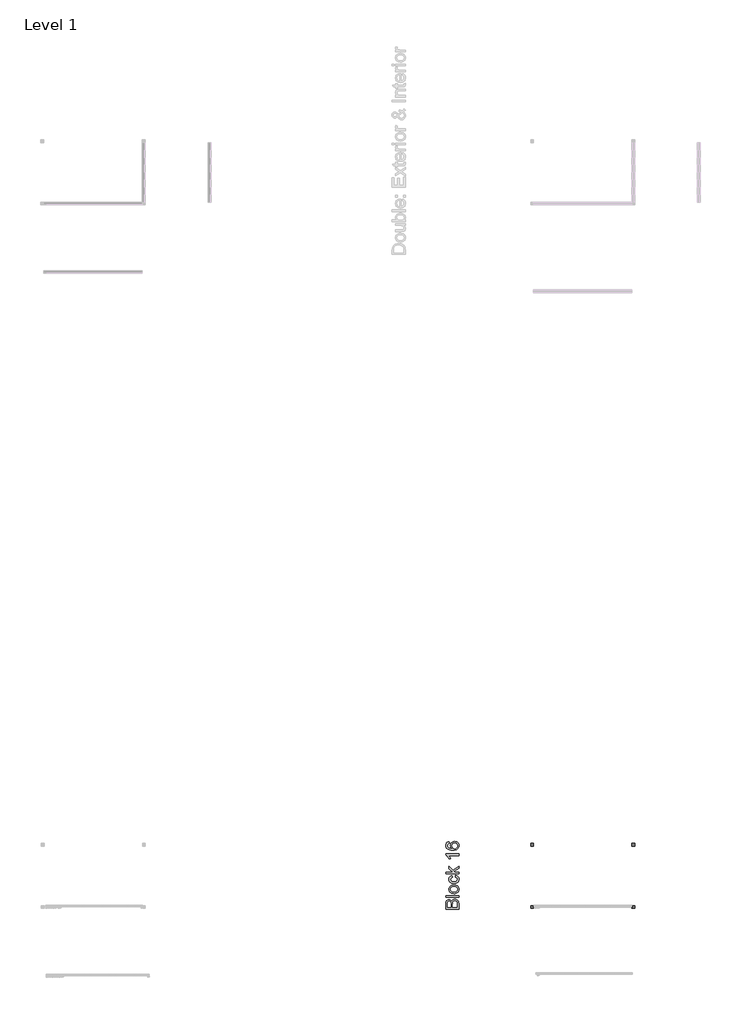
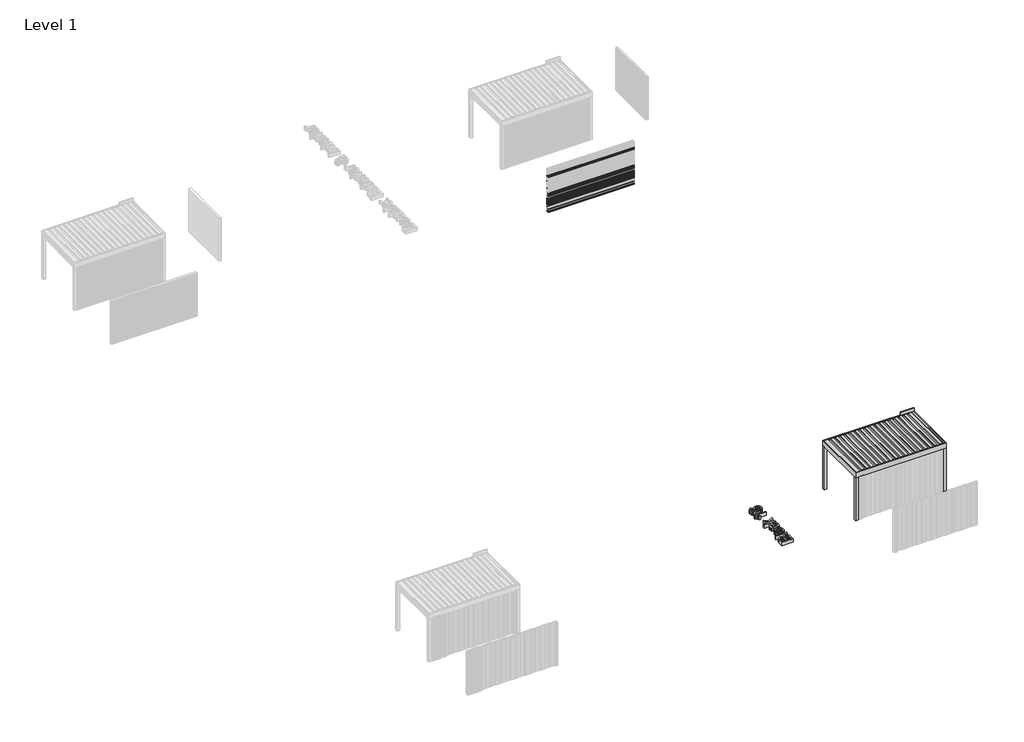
# One storey, part 38 of 47: 69 proxies.
"""IFC4 building model written with IfcOpenShell, lengths in millimetres."""

from ifc_helpers import new_model, si_unit, frame, origin, origin_with_axes, place, context, project, spatial, polyline, outline, extrude, transform, mapped, element, save
from components import generic_models_6c472f40

model = new_model("IFC4")

# Units and contexts
model_context = context("Model", 3, world=origin())
ifc_project = project(units=[si_unit("LENGTHUNIT", "METRE", prefix="MILLI")], contexts=[model_context])

# Site, building, storey
site = spatial("IfcSite", under=ifc_project)
building = spatial("IfcBuilding", under=site)
storey = spatial("IfcBuildingStorey", under=building, Name="Level 1", Elevation=0.0)

# Proxies
placement = place(None, origin())
element("IfcBuildingElementProxy", 1, Name="Wall Sweeps", at=placement, inside=storey, context=model_context, shape_type="SweptSolid", body=[
    extrude(outline(polyline([(1074.9, 190362.4238385), (1085.9562577, 190343.2738385), (1098.9, 190343.2738385), (1098.9, 190342.0238385), (1085.2345698, 190342.0238385), (1074.1782281, 190361.1738385), (1062.1216933, 190361.1738385), (1061.4, 190362.4238385), (1074.9, 190362.4238385)])), frame((0.0, 39632.1593685, 0.0), z_axis=(0.0, 1.0, 0.0), x_axis=(0.0, 0.0, 1.0)), (0.0, 0.0, 1.0), 2280.0),
])
element("IfcBuildingElementProxy", 2, Name="Wall Sweeps", at=placement, inside=storey, context=model_context, shape_type="SweptSolid", body=[
    extrude(outline(polyline([(1041.6, 190362.4238385), (1052.6562577, 190343.2738385), (1065.6, 190343.2738385), (1065.6, 190342.0238385), (1051.9345698, 190342.0238385), (1040.8782281, 190361.1738385), (1028.8216933, 190361.1738385), (1028.1, 190362.4238385), (1041.6, 190362.4238385)])), frame((0.0, 39632.1593685, 0.0), z_axis=(0.0, 1.0, 0.0), x_axis=(0.0, 0.0, 1.0)), (0.0, 0.0, 1.0), 2280.0),
])
element("IfcBuildingElementProxy", 3, Name="Wall Sweeps", at=placement, inside=storey, context=model_context, shape_type="SweptSolid", body=[
    extrude(outline(polyline([(1008.3, 190362.4238385), (1019.3562577, 190343.2738385), (1032.3, 190343.2738385), (1032.3, 190342.0238385), (1018.6345698, 190342.0238385), (1007.5782281, 190361.1738385), (995.5216933, 190361.1738385), (994.8, 190362.4238385), (1008.3, 190362.4238385)])), frame((0.0, 39632.1593685, 0.0), z_axis=(0.0, 1.0, 0.0), x_axis=(0.0, 0.0, 1.0)), (0.0, 0.0, 1.0), 2280.0),
])
element("IfcBuildingElementProxy", 4, Name="Wall Sweeps", at=placement, inside=storey, context=model_context, shape_type="SweptSolid", body=[
    extrude(outline(polyline([(975.0, 190362.4238385), (986.0562577, 190343.2738385), (999.0, 190343.2738385), (999.0, 190342.0238385), (985.3345698, 190342.0238385), (974.2782281, 190361.1738385), (962.2216933, 190361.1738385), (961.5, 190362.4238385), (975.0, 190362.4238385)])), frame((0.0, 39632.1593685, 0.0), z_axis=(0.0, 1.0, 0.0), x_axis=(0.0, 0.0, 1.0)), (0.0, 0.0, 1.0), 2280.0),
])
element("IfcBuildingElementProxy", 5, Name="Wall Sweeps", at=placement, inside=storey, context=model_context, shape_type="SweptSolid", body=[
    extrude(outline(polyline([(941.7, 190362.4238385), (952.7562577, 190343.2738385), (965.7, 190343.2738385), (965.7, 190342.0238385), (952.0345698, 190342.0238385), (940.9782281, 190361.1738385), (928.9216933, 190361.1738385), (928.2, 190362.4238385), (941.7, 190362.4238385)])), frame((0.0, 39632.1593685, 0.0), z_axis=(0.0, 1.0, 0.0), x_axis=(0.0, 0.0, 1.0)), (0.0, 0.0, 1.0), 2280.0),
])
element("IfcBuildingElementProxy", 6, Name="Wall Sweeps", at=placement, inside=storey, context=model_context, shape_type="SweptSolid", body=[
    extrude(outline(polyline([(908.4, 190362.4238385), (919.4562577, 190343.2738385), (932.4, 190343.2738385), (932.4, 190342.0238385), (918.7345698, 190342.0238385), (907.6782281, 190361.1738385), (895.6216933, 190361.1738385), (894.9, 190362.4238385), (908.4, 190362.4238385)])), frame((0.0, 39632.1593685, 0.0), z_axis=(0.0, 1.0, 0.0), x_axis=(0.0, 0.0, 1.0)), (0.0, 0.0, 1.0), 2280.0),
])
element("IfcBuildingElementProxy", 7, Name="Wall Sweeps", at=placement, inside=storey, context=model_context, shape_type="SweptSolid", body=[
    extrude(outline(polyline([(875.1, 190362.4238385), (886.1562577, 190343.2738385), (899.1, 190343.2738385), (899.1, 190342.0238385), (885.4345698, 190342.0238385), (874.3782281, 190361.1738385), (862.3216933, 190361.1738385), (861.6, 190362.4238385), (875.1, 190362.4238385)])), frame((0.0, 39632.1593685, 0.0), z_axis=(0.0, 1.0, 0.0), x_axis=(0.0, 0.0, 1.0)), (0.0, 0.0, 1.0), 2280.0),
])
element("IfcBuildingElementProxy", 8, Name="Wall Sweeps", at=placement, inside=storey, context=model_context, shape_type="SweptSolid", body=[
    extrude(outline(polyline([(841.8, 190362.4238385), (852.8562577, 190343.2738385), (865.8, 190343.2738385), (865.8, 190342.0238385), (852.1345698, 190342.0238385), (841.0782281, 190361.1738385), (829.0216933, 190361.1738385), (828.3, 190362.4238385), (841.8, 190362.4238385)])), frame((0.0, 39632.1593685, 0.0), z_axis=(0.0, 1.0, 0.0), x_axis=(0.0, 0.0, 1.0)), (0.0, 0.0, 1.0), 2280.0),
])
element("IfcBuildingElementProxy", 9, Name="Wall Sweeps", at=placement, inside=storey, context=model_context, shape_type="SweptSolid", body=[
    extrude(outline(polyline([(808.5, 190362.4238385), (819.5562577, 190343.2738385), (832.5, 190343.2738385), (832.5, 190342.0238385), (818.8345698, 190342.0238385), (807.7782281, 190361.1738385), (795.7216933, 190361.1738385), (795.0, 190362.4238385), (808.5, 190362.4238385)])), frame((0.0, 39632.1593685, 0.0), z_axis=(0.0, 1.0, 0.0), x_axis=(0.0, 0.0, 1.0)), (0.0, 0.0, 1.0), 2280.0),
])
element("IfcBuildingElementProxy", 10, Name="Wall Sweeps", at=placement, inside=storey, context=model_context, shape_type="SweptSolid", body=[
    extrude(outline(polyline([(775.2, 190362.4238385), (786.2562577, 190343.2738385), (799.2, 190343.2738385), (799.2, 190342.0238385), (785.5345698, 190342.0238385), (774.4782281, 190361.1738385), (762.4216933, 190361.1738385), (761.7, 190362.4238385), (775.2, 190362.4238385)])), frame((0.0, 39632.1593685, 0.0), z_axis=(0.0, 1.0, 0.0), x_axis=(0.0, 0.0, 1.0)), (0.0, 0.0, 1.0), 2280.0),
])
element("IfcBuildingElementProxy", 11, Name="Wall Sweeps", at=placement, inside=storey, context=model_context, shape_type="SweptSolid", body=[
    extrude(outline(polyline([(741.9, 190362.4238385), (752.9562577, 190343.2738385), (765.9, 190343.2738385), (765.9, 190342.0238385), (752.2345698, 190342.0238385), (741.1782281, 190361.1738385), (729.1216933, 190361.1738385), (728.4, 190362.4238385), (741.9, 190362.4238385)])), frame((0.0, 39632.1593685, 0.0), z_axis=(0.0, 1.0, 0.0), x_axis=(0.0, 0.0, 1.0)), (0.0, 0.0, 1.0), 2280.0),
])
element("IfcBuildingElementProxy", 12, Name="Wall Sweeps", at=placement, inside=storey, context=model_context, shape_type="SweptSolid", body=[
    extrude(outline(polyline([(708.6, 190362.4238385), (719.6562577, 190343.2738385), (732.6, 190343.2738385), (732.6, 190342.0238385), (718.9345698, 190342.0238385), (707.8782281, 190361.1738385), (695.8216933, 190361.1738385), (695.1, 190362.4238385), (708.6, 190362.4238385)])), frame((0.0, 39632.1593685, 0.0), z_axis=(0.0, 1.0, 0.0), x_axis=(0.0, 0.0, 1.0)), (0.0, 0.0, 1.0), 2280.0),
])
element("IfcBuildingElementProxy", 13, Name="Wall Sweeps", at=placement, inside=storey, context=model_context, shape_type="SweptSolid", body=[
    extrude(outline(polyline([(675.3, 190362.4238385), (686.3562577, 190343.2738385), (699.3, 190343.2738385), (699.3, 190342.0238385), (685.6345698, 190342.0238385), (674.5782281, 190361.1738385), (662.5216933, 190361.1738385), (661.8, 190362.4238385), (675.3, 190362.4238385)])), frame((0.0, 39632.1593685, 0.0), z_axis=(0.0, 1.0, 0.0), x_axis=(0.0, 0.0, 1.0)), (0.0, 0.0, 1.0), 2280.0),
])
element("IfcBuildingElementProxy", 14, Name="Wall Sweeps", at=placement, inside=storey, context=model_context, shape_type="SweptSolid", body=[
    extrude(outline(polyline([(642.0, 190362.4238385), (653.0562577, 190343.2738385), (666.0, 190343.2738385), (666.0, 190342.0238385), (652.3345698, 190342.0238385), (641.2782281, 190361.1738385), (629.2216933, 190361.1738385), (628.5, 190362.4238385), (642.0, 190362.4238385)])), frame((0.0, 39632.1593685, 0.0), z_axis=(0.0, 1.0, 0.0), x_axis=(0.0, 0.0, 1.0)), (0.0, 0.0, 1.0), 2280.0),
])
element("IfcBuildingElementProxy", 15, Name="Wall Sweeps", at=placement, inside=storey, context=model_context, shape_type="SweptSolid", body=[
    extrude(outline(polyline([(608.7, 190362.4238385), (619.7562577, 190343.2738385), (632.7, 190343.2738385), (632.7, 190342.0238385), (619.0345698, 190342.0238385), (607.9782281, 190361.1738385), (595.9216933, 190361.1738385), (595.2, 190362.4238385), (608.7, 190362.4238385)])), frame((0.0, 39632.1593685, 0.0), z_axis=(0.0, 1.0, 0.0), x_axis=(0.0, 0.0, 1.0)), (0.0, 0.0, 1.0), 2280.0),
])
element("IfcBuildingElementProxy", 16, Name="Wall Sweeps", at=placement, inside=storey, context=model_context, shape_type="SweptSolid", body=[
    extrude(outline(polyline([(575.4, 190362.4238385), (586.4562577, 190343.2738385), (599.4, 190343.2738385), (599.4, 190342.0238385), (585.7345698, 190342.0238385), (574.6782281, 190361.1738385), (562.6216933, 190361.1738385), (561.9, 190362.4238385), (575.4, 190362.4238385)])), frame((0.0, 39632.1593685, 0.0), z_axis=(0.0, 1.0, 0.0), x_axis=(0.0, 0.0, 1.0)), (0.0, 0.0, 1.0), 2280.0),
])
element("IfcBuildingElementProxy", 17, Name="Wall Sweeps", at=placement, inside=storey, context=model_context, shape_type="SweptSolid", body=[
    extrude(outline(polyline([(542.1, 190362.4238385), (553.1562577, 190343.2738385), (566.1, 190343.2738385), (566.1, 190342.0238385), (552.4345698, 190342.0238385), (541.3782281, 190361.1738385), (529.3216933, 190361.1738385), (528.6, 190362.4238385), (542.1, 190362.4238385)])), frame((0.0, 39632.1593685, 0.0), z_axis=(0.0, 1.0, 0.0), x_axis=(0.0, 0.0, 1.0)), (0.0, 0.0, 1.0), 2280.0),
])
element("IfcBuildingElementProxy", 18, Name="Wall Sweeps", at=placement, inside=storey, context=model_context, shape_type="SweptSolid", body=[
    extrude(outline(polyline([(508.8, 190362.4238385), (519.8562577, 190343.2738385), (532.8, 190343.2738385), (532.8, 190342.0238385), (519.1345698, 190342.0238385), (508.0782281, 190361.1738385), (496.0216933, 190361.1738385), (495.3, 190362.4238385), (508.8, 190362.4238385)])), frame((0.0, 39632.1593685, 0.0), z_axis=(0.0, 1.0, 0.0), x_axis=(0.0, 0.0, 1.0)), (0.0, 0.0, 1.0), 2280.0),
])
element("IfcBuildingElementProxy", 19, Name="Wall Sweeps", at=placement, inside=storey, context=model_context, shape_type="SweptSolid", body=[
    extrude(outline(polyline([(475.5, 190362.4238385), (486.5562577, 190343.2738385), (499.5, 190343.2738385), (499.5, 190342.0238385), (485.8345698, 190342.0238385), (474.7782281, 190361.1738385), (462.7216933, 190361.1738385), (462.0, 190362.4238385), (475.5, 190362.4238385)])), frame((0.0, 39632.1593685, 0.0), z_axis=(0.0, 1.0, 0.0), x_axis=(0.0, 0.0, 1.0)), (0.0, 0.0, 1.0), 2280.0),
])
element("IfcBuildingElementProxy", 20, Name="Wall Sweeps", at=placement, inside=storey, context=model_context, shape_type="SweptSolid", body=[
    extrude(outline(polyline([(442.2, 190362.4238385), (453.2562577, 190343.2738385), (466.2, 190343.2738385), (466.2, 190342.0238385), (452.5345698, 190342.0238385), (441.4782281, 190361.1738385), (429.4216933, 190361.1738385), (428.7, 190362.4238385), (442.2, 190362.4238385)])), frame((0.0, 39632.1593685, 0.0), z_axis=(0.0, 1.0, 0.0), x_axis=(0.0, 0.0, 1.0)), (0.0, 0.0, 1.0), 2280.0),
])
element("IfcBuildingElementProxy", 21, Name="Wall Sweeps", at=placement, inside=storey, context=model_context, shape_type="SweptSolid", body=[
    extrude(outline(polyline([(408.9, 190362.4238385), (419.9562577, 190343.2738385), (432.9, 190343.2738385), (432.9, 190342.0238385), (419.2345698, 190342.0238385), (408.1782281, 190361.1738385), (396.1216933, 190361.1738385), (395.4, 190362.4238385), (408.9, 190362.4238385)])), frame((0.0, 39632.1593685, 0.0), z_axis=(0.0, 1.0, 0.0), x_axis=(0.0, 0.0, 1.0)), (0.0, 0.0, 1.0), 2280.0),
])
element("IfcBuildingElementProxy", 22, Name="Wall Sweeps", at=placement, inside=storey, context=model_context, shape_type="SweptSolid", body=[
    extrude(outline(polyline([(375.6, 190362.4238385), (386.6562577, 190343.2738385), (399.6, 190343.2738385), (399.6, 190342.0238385), (385.9345698, 190342.0238385), (374.8782281, 190361.1738385), (362.8216933, 190361.1738385), (362.1, 190362.4238385), (375.6, 190362.4238385)])), frame((0.0, 39632.1593685, 0.0), z_axis=(0.0, 1.0, 0.0), x_axis=(0.0, 0.0, 1.0)), (0.0, 0.0, 1.0), 2280.0),
])
element("IfcBuildingElementProxy", 23, Name="Wall Sweeps", at=placement, inside=storey, context=model_context, shape_type="SweptSolid", body=[
    extrude(outline(polyline([(342.3, 190362.4238385), (353.3562577, 190343.2738385), (366.3, 190343.2738385), (366.3, 190342.0238385), (352.6345698, 190342.0238385), (341.5782281, 190361.1738385), (329.5216933, 190361.1738385), (328.8, 190362.4238385), (342.3, 190362.4238385)])), frame((0.0, 39632.1593685, 0.0), z_axis=(0.0, 1.0, 0.0), x_axis=(0.0, 0.0, 1.0)), (0.0, 0.0, 1.0), 2280.0),
])
element("IfcBuildingElementProxy", 24, Name="Wall Sweeps", at=placement, inside=storey, context=model_context, shape_type="SweptSolid", body=[
    extrude(outline(polyline([(309.0, 190362.4238385), (320.0562577, 190343.2738385), (333.0, 190343.2738385), (333.0, 190342.0238385), (319.3345698, 190342.0238385), (308.2782281, 190361.1738385), (296.2216933, 190361.1738385), (295.5, 190362.4238385), (309.0, 190362.4238385)])), frame((0.0, 39632.1593685, 0.0), z_axis=(0.0, 1.0, 0.0), x_axis=(0.0, 0.0, 1.0)), (0.0, 0.0, 1.0), 2280.0),
])
element("IfcBuildingElementProxy", 25, Name="Wall Sweeps", at=placement, inside=storey, context=model_context, shape_type="SweptSolid", body=[
    extrude(outline(polyline([(275.7, 190362.4238385), (286.7562577, 190343.2738385), (299.7, 190343.2738385), (299.7, 190342.0238385), (286.0345698, 190342.0238385), (274.9782281, 190361.1738385), (262.9216933, 190361.1738385), (262.2, 190362.4238385), (275.7, 190362.4238385)])), frame((0.0, 39632.1593685, 0.0), z_axis=(0.0, 1.0, 0.0), x_axis=(0.0, 0.0, 1.0)), (0.0, 0.0, 1.0), 2280.0),
])
element("IfcBuildingElementProxy", 26, Name="Wall Sweeps", at=placement, inside=storey, context=model_context, shape_type="SweptSolid", body=[
    extrude(outline(polyline([(242.4, 190362.4238385), (253.4562577, 190343.2738385), (266.4, 190343.2738385), (266.4, 190342.0238385), (252.7345698, 190342.0238385), (241.6782281, 190361.1738385), (229.6216933, 190361.1738385), (228.9, 190362.4238385), (242.4, 190362.4238385)])), frame((0.0, 39632.1593685, 0.0), z_axis=(0.0, 1.0, 0.0), x_axis=(0.0, 0.0, 1.0)), (0.0, 0.0, 1.0), 2280.0),
])
element("IfcBuildingElementProxy", 27, Name="Wall Sweeps", at=placement, inside=storey, context=model_context, shape_type="SweptSolid", body=[
    extrude(outline(polyline([(209.1, 190362.4238385), (220.1562577, 190343.2738385), (233.1, 190343.2738385), (233.1, 190342.0238385), (219.4345698, 190342.0238385), (208.3782281, 190361.1738385), (196.3216933, 190361.1738385), (195.6, 190362.4238385), (209.1, 190362.4238385)])), frame((0.0, 39632.1593685, 0.0), z_axis=(0.0, 1.0, 0.0), x_axis=(0.0, 0.0, 1.0)), (0.0, 0.0, 1.0), 2280.0),
])
element("IfcBuildingElementProxy", 28, Name="Wall Sweeps", at=placement, inside=storey, context=model_context, shape_type="SweptSolid", body=[
    extrude(outline(polyline([(175.8, 190362.4238385), (186.8562577, 190343.2738385), (199.8, 190343.2738385), (199.8, 190342.0238385), (186.1345698, 190342.0238385), (175.0782281, 190361.1738385), (163.0216933, 190361.1738385), (162.3, 190362.4238385), (175.8, 190362.4238385)])), frame((0.0, 39632.1593685, 0.0), z_axis=(0.0, 1.0, 0.0), x_axis=(0.0, 0.0, 1.0)), (0.0, 0.0, 1.0), 2280.0),
])
element("IfcBuildingElementProxy", 29, Name="Wall Sweeps", at=placement, inside=storey, context=model_context, shape_type="SweptSolid", body=[
    extrude(outline(polyline([(142.5, 190362.4238385), (153.5562577, 190343.2738385), (166.5, 190343.2738385), (166.5, 190342.0238385), (152.8345698, 190342.0238385), (141.7782281, 190361.1738385), (129.7216933, 190361.1738385), (129.0, 190362.4238385), (142.5, 190362.4238385)])), frame((0.0, 39632.1593685, 0.0), z_axis=(0.0, 1.0, 0.0), x_axis=(0.0, 0.0, 1.0)), (0.0, 0.0, 1.0), 2280.0),
])
element("IfcBuildingElementProxy", 30, Name="Wall Sweeps", at=placement, inside=storey, context=model_context, shape_type="SweptSolid", body=[
    extrude(outline(polyline([(109.2, 190362.4238385), (120.2562577, 190343.2738385), (133.2, 190343.2738385), (133.2, 190342.0238385), (119.5345698, 190342.0238385), (108.4782281, 190361.1738385), (96.4216933, 190361.1738385), (95.7, 190362.4238385), (109.2, 190362.4238385)])), frame((0.0, 39632.1593685, 0.0), z_axis=(0.0, 1.0, 0.0), x_axis=(0.0, 0.0, 1.0)), (0.0, 0.0, 1.0), 2280.0),
])
element("IfcBuildingElementProxy", 31, Name="Wall Sweeps", at=placement, inside=storey, context=model_context, shape_type="SweptSolid", body=[
    extrude(outline(polyline([(75.9, 190362.4238385), (86.9562577, 190343.2738385), (99.9, 190343.2738385), (99.9, 190342.0238385), (86.2345698, 190342.0238385), (75.1782281, 190361.1738385), (63.1216933, 190361.1738385), (62.4, 190362.4238385), (75.9, 190362.4238385)])), frame((0.0, 39632.1593685, 0.0), z_axis=(0.0, 1.0, 0.0), x_axis=(0.0, 0.0, 1.0)), (0.0, 0.0, 1.0), 2280.0),
])
element("IfcBuildingElementProxy", 32, Name="Wall Sweeps", at=placement, inside=storey, context=model_context, shape_type="SweptSolid", body=[
    extrude(outline(polyline([(42.6, 190362.4238385), (53.6562577, 190343.2738385), (66.6, 190343.2738385), (66.6, 190342.0238385), (52.9345698, 190342.0238385), (41.8782281, 190361.1738385), (29.8216933, 190361.1738385), (29.1, 190362.4238385), (42.6, 190362.4238385)])), frame((0.0, 39632.1593685, 0.0), z_axis=(0.0, 1.0, 0.0), x_axis=(0.0, 0.0, 1.0)), (0.0, 0.0, 1.0), 2280.0),
])
element("IfcBuildingElementProxy", 33, Name="Wall Sweeps", at=placement, inside=storey, context=model_context, shape_type="SweptSolid", body=[
    extrude(outline(polyline([(9.3, 190362.4238385), (20.3562577, 190343.2738385), (33.3, 190343.2738385), (33.3, 190342.0238385), (19.6345698, 190342.0238385), (8.5782281, 190361.1738385), (-3.4783067, 190361.1738385), (-4.2, 190362.4238385), (9.3, 190362.4238385)])), frame((0.0, 39632.1593685, 0.0), z_axis=(0.0, 1.0, 0.0), x_axis=(0.0, 0.0, 1.0)), (0.0, 0.0, 1.0), 2280.0),
])
element("IfcBuildingElementProxy", 34, Name="Wall Sweeps", at=placement, inside=storey, context=model_context, shape_type="SweptSolid", body=[
    extrude(outline(polyline([(36266.8292826, 309.3), (36266.8292826, 295.8), (36265.5792826, 296.5216933), (36265.5792826, 308.5782281), (36246.4292826, 319.6345698), (36246.4292826, 333.3), (36247.6792826, 333.3), (36247.6792826, 320.3562577), (36266.8292826, 309.3)])), frame((205282.4238385, 0.0, 0.0), z_axis=(1.0, 0.0, 0.0), x_axis=(0.0, 1.0, 0.0)), (0.0, 0.0, 1.0), 3780.0),
])
element("IfcBuildingElementProxy", 35, Name="Wall Sweeps", at=placement, inside=storey, context=model_context, shape_type="SweptSolid", body=[
    extrude(outline(polyline([(36156.8292826, 741.9), (36175.9792826, 752.9562577), (36175.9792826, 765.9), (36177.2292826, 765.9), (36177.2292826, 752.2345698), (36158.0792826, 741.1782281), (36158.0792826, 729.1216933), (36156.8292826, 728.4), (36156.8292826, 741.9)])), frame((205282.4238385, 0.0, 0.0), z_axis=(1.0, 0.0, 0.0), x_axis=(0.0, 1.0, 0.0)), (0.0, 0.0, 1.0), 3780.0),
])
element("IfcBuildingElementProxy", 36, Name="Wall Sweeps", at=placement, inside=storey, context=model_context, shape_type="SweptSolid", body=[
    extrude(outline(polyline([(36156.8292826, 808.5), (36175.9792826, 819.5562577), (36175.9792826, 832.5), (36177.2292826, 832.5), (36177.2292826, 818.8345698), (36158.0792826, 807.7782281), (36158.0792826, 795.7216933), (36156.8292826, 795.0), (36156.8292826, 808.5)])), frame((205282.4238385, 0.0, 0.0), z_axis=(1.0, 0.0, 0.0), x_axis=(0.0, 1.0, 0.0)), (0.0, 0.0, 1.0), 3780.0),
])
element("IfcBuildingElementProxy", 37, Name="Wall Sweeps", at=placement, inside=storey, context=model_context, shape_type="SweptSolid", body=[
    extrude(outline(polyline([(36156.8292826, 875.1), (36175.9792826, 886.1562577), (36175.9792826, 899.1), (36177.2292826, 899.1), (36177.2292826, 885.4345698), (36158.0792826, 874.3782281), (36158.0792826, 862.3216933), (36156.8292826, 861.6), (36156.8292826, 875.1)])), frame((205282.4238385, 0.0, 0.0), z_axis=(1.0, 0.0, 0.0), x_axis=(0.0, 1.0, 0.0)), (0.0, 0.0, 1.0), 3780.0),
])
element("IfcBuildingElementProxy", 38, Name="Wall Sweeps", at=placement, inside=storey, context=model_context, shape_type="SweptSolid", body=[
    extrude(outline(polyline([(36266.8292826, 1075.9), (36266.8292826, 1062.4), (36265.5792826, 1063.1216933), (36265.5792826, 1075.1782281), (36246.4292826, 1086.2345698), (36246.4292826, 1099.9), (36247.6792826, 1099.9), (36247.6792826, 1086.9562577), (36266.8292826, 1075.9)])), frame((205282.4238385, 0.0, 0.0), z_axis=(1.0, 0.0, 0.0), x_axis=(0.0, 1.0, 0.0)), (0.0, 0.0, 1.0), 3780.0),
])
element("IfcBuildingElementProxy", 39, Name="Wall Sweeps", at=placement, inside=storey, context=model_context, shape_type="SweptSolid", body=[
    extrude(outline(polyline([(36266.8292826, 1409.2), (36266.8292826, 1395.7), (36265.5792826, 1396.4216933), (36265.5792826, 1408.4782281), (36246.4292826, 1419.5345698), (36246.4292826, 1433.2), (36247.6792826, 1433.2), (36247.6792826, 1420.2562577), (36266.8292826, 1409.2)])), frame((205282.4238385, 0.0, 0.0), z_axis=(1.0, 0.0, 0.0), x_axis=(0.0, 1.0, 0.0)), (0.0, 0.0, 1.0), 3780.0),
])
element("IfcBuildingElementProxy", 40, Name="Wall Sweeps", at=placement, inside=storey, context=model_context, shape_type="SweptSolid", body=[
    extrude(outline(polyline([(36156.8292826, 1641.0), (36175.9792826, 1652.0562577), (36175.9792826, 1665.0), (36177.2292826, 1665.0), (36177.2292826, 1651.3345698), (36158.0792826, 1640.2782281), (36158.0792826, 1628.2216933), (36156.8292826, 1627.5), (36156.8292826, 1641.0)])), frame((205282.4238385, 0.0, 0.0), z_axis=(1.0, 0.0, 0.0), x_axis=(0.0, 1.0, 0.0)), (0.0, 0.0, 1.0), 3780.0),
])
element("IfcBuildingElementProxy", 41, Name="Wall Sweeps", at=placement, inside=storey, context=model_context, shape_type="SweptSolid", body=[
    extrude(outline(polyline([(36156.8292826, 142.5), (36175.9792826, 153.5562577), (36175.9792826, 166.5), (36177.2292826, 166.5), (36177.2292826, 152.8345698), (36158.0792826, 141.7782281), (36158.0792826, 129.7216933), (36156.8292826, 129.0), (36156.8292826, 142.5)])), frame((205282.4238385, 0.0, 0.0), z_axis=(1.0, 0.0, 0.0), x_axis=(0.0, 1.0, 0.0)), (0.0, 0.0, 1.0), 3780.0),
])
element("IfcBuildingElementProxy", 42, Name="Wall Sweeps", at=placement, inside=storey, context=model_context, shape_type="SweptSolid", body=[
    extrude(outline(polyline([(36266.8292826, 1641.0), (36266.8292826, 1627.5), (36265.5792826, 1628.2216933), (36265.5792826, 1640.2782281), (36246.4292826, 1651.3345698), (36246.4292826, 1665.0), (36247.6792826, 1665.0), (36247.6792826, 1652.0562577), (36266.8292826, 1641.0)])), frame((205282.4238385, 0.0, 0.0), z_axis=(1.0, 0.0, 0.0), x_axis=(0.0, 1.0, 0.0)), (0.0, 0.0, 1.0), 3780.0),
])
element("IfcBuildingElementProxy", 43, Name="Wall Sweeps", at=placement, inside=storey, context=model_context, shape_type="SweptSolid", body=[
    extrude(outline(polyline([(36156.8292826, 1707.6), (36175.9792826, 1718.6562577), (36175.9792826, 1731.6), (36177.2292826, 1731.6), (36177.2292826, 1717.9345698), (36158.0792826, 1706.8782281), (36158.0792826, 1694.8216933), (36156.8292826, 1694.1), (36156.8292826, 1707.6)])), frame((205282.4238385, 0.0, 0.0), z_axis=(1.0, 0.0, 0.0), x_axis=(0.0, 1.0, 0.0)), (0.0, 0.0, 1.0), 3780.0),
])
element("IfcBuildingElementProxy", 44, Name="Wall Sweeps", at=placement, inside=storey, context=model_context, shape_type="SweptSolid", body=[
    extrude(outline(polyline([(36266.8292826, 209.3), (36266.8292826, 195.8), (36265.5792826, 196.5216933), (36265.5792826, 208.5782281), (36246.4292826, 219.6345698), (36246.4292826, 233.3), (36247.6792826, 233.3), (36247.6792826, 220.3562577), (36266.8292826, 209.3)])), frame((205282.4238385, 0.0, 0.0), z_axis=(1.0, 0.0, 0.0), x_axis=(0.0, 1.0, 0.0)), (0.0, 0.0, 1.0), 3780.0),
])
element("IfcBuildingElementProxy", 45, Name="Wall Sweeps", at=placement, inside=storey, context=model_context, shape_type="SweptSolid", body=[
    extrude(outline(polyline([(36156.8292826, 309.0), (36175.9792826, 320.0562577), (36175.9792826, 333.0), (36177.2292826, 333.0), (36177.2292826, 319.3345698), (36158.0792826, 308.2782281), (36158.0792826, 296.2216933), (36156.8292826, 295.5), (36156.8292826, 309.0)])), frame((205282.4238385, 0.0, 0.0), z_axis=(1.0, 0.0, 0.0), x_axis=(0.0, 1.0, 0.0)), (0.0, 0.0, 1.0), 3780.0),
])
element("IfcBuildingElementProxy", 46, Name="Wall Sweeps", at=placement, inside=storey, context=model_context, shape_type="SweptSolid", body=[
    extrude(outline(polyline([(36156.8292826, 9.3), (36175.9792826, 20.3562577), (36175.9792826, 33.3), (36177.2292826, 33.3), (36177.2292826, 19.6345698), (36158.0792826, 8.5782281), (36158.0792826, -3.4783067), (36156.8292826, -4.2), (36156.8292826, 9.3)])), frame((205282.4238385, 0.0, 0.0), z_axis=(1.0, 0.0, 0.0), x_axis=(0.0, 1.0, 0.0)), (0.0, 0.0, 1.0), 3780.0),
])
element("IfcBuildingElementProxy", 47, Name="Wall Sweeps", at=placement, inside=storey, context=model_context, shape_type="SweptSolid", body=[
    extrude(outline(polyline([(36266.8292826, 9.3), (36266.8292826, -4.2), (36265.5792826, -3.4783067), (36265.5792826, 8.5782281), (36246.4292826, 19.6345698), (36246.4292826, 33.3), (36247.6792826, 33.3), (36247.6792826, 20.3562577), (36266.8292826, 9.3)])), frame((205282.4238385, 0.0, 0.0), z_axis=(1.0, 0.0, 0.0), x_axis=(0.0, 1.0, 0.0)), (0.0, 0.0, 1.0), 3780.0),
])
element("IfcBuildingElementProxy", 48, Name="Wall Sweeps", at=placement, inside=storey, context=model_context, shape_type="SweptSolid", body=[
    extrude(outline(polyline([(36156.8292826, 342.3), (36175.9792826, 353.3562577), (36175.9792826, 366.3), (36177.2292826, 366.3), (36177.2292826, 352.6345698), (36158.0792826, 341.5782281), (36158.0792826, 329.5216933), (36156.8292826, 328.8), (36156.8292826, 342.3)])), frame((205282.4238385, 0.0, 0.0), z_axis=(1.0, 0.0, 0.0), x_axis=(0.0, 1.0, 0.0)), (0.0, 0.0, 1.0), 3780.0),
])
element("IfcBuildingElementProxy", 49, Name="Wall Sweeps", at=placement, inside=storey, context=model_context, shape_type="SweptSolid", body=[
    extrude(outline(polyline([(36266.8292826, 342.6), (36266.8292826, 329.1), (36265.5792826, 329.8216933), (36265.5792826, 341.8782281), (36246.4292826, 352.9345698), (36246.4292826, 366.6), (36247.6792826, 366.6), (36247.6792826, 353.6562577), (36266.8292826, 342.6)])), frame((205282.4238385, 0.0, 0.0), z_axis=(1.0, 0.0, 0.0), x_axis=(0.0, 1.0, 0.0)), (0.0, 0.0, 1.0), 3780.0),
])
element("IfcBuildingElementProxy", 50, Name="Wall Sweeps", at=placement, inside=storey, context=model_context, shape_type="SweptSolid", body=[
    extrude(outline(polyline([(36156.8292826, 375.6), (36175.9792826, 386.6562577), (36175.9792826, 399.6), (36177.2292826, 399.6), (36177.2292826, 385.9345698), (36158.0792826, 374.8782281), (36158.0792826, 362.8216933), (36156.8292826, 362.1), (36156.8292826, 375.6)])), frame((205282.4238385, 0.0, 0.0), z_axis=(1.0, 0.0, 0.0), x_axis=(0.0, 1.0, 0.0)), (0.0, 0.0, 1.0), 3780.0),
])
element("IfcBuildingElementProxy", 51, Name="Wall Sweeps", at=placement, inside=storey, context=model_context, shape_type="SweptSolid", body=[
    extrude(outline(polyline([(36266.8292826, 376.0), (36266.8292826, 362.5), (36265.5792826, 363.2216933), (36265.5792826, 375.2782281), (36246.4292826, 386.3345698), (36246.4292826, 400.0), (36247.6792826, 400.0), (36247.6792826, 387.0562577), (36266.8292826, 376.0)])), frame((205282.4238385, 0.0, 0.0), z_axis=(1.0, 0.0, 0.0), x_axis=(0.0, 1.0, 0.0)), (0.0, 0.0, 1.0), 3780.0),
])
element("IfcBuildingElementProxy", 52, Name="Wall Sweeps", at=placement, inside=storey, context=model_context, shape_type="SweptSolid", body=[
    extrude(outline(polyline([(36156.8292826, 408.9), (36175.9792826, 419.9562577), (36175.9792826, 432.9), (36177.2292826, 432.9), (36177.2292826, 419.2345698), (36158.0792826, 408.1782281), (36158.0792826, 396.1216933), (36156.8292826, 395.4), (36156.8292826, 408.9)])), frame((205282.4238385, 0.0, 0.0), z_axis=(1.0, 0.0, 0.0), x_axis=(0.0, 1.0, 0.0)), (0.0, 0.0, 1.0), 3780.0),
])
element("IfcBuildingElementProxy", 53, Name="Wall Sweeps", at=placement, inside=storey, context=model_context, shape_type="SweptSolid", body=[
    extrude(outline(polyline([(36266.8292826, 409.3), (36266.8292826, 395.8), (36265.5792826, 396.5216933), (36265.5792826, 408.5782281), (36246.4292826, 419.6345698), (36246.4292826, 433.3), (36247.6792826, 433.3), (36247.6792826, 420.3562577), (36266.8292826, 409.3)])), frame((205282.4238385, 0.0, 0.0), z_axis=(1.0, 0.0, 0.0), x_axis=(0.0, 1.0, 0.0)), (0.0, 0.0, 1.0), 3780.0),
])
element("IfcBuildingElementProxy", 54, Name="Wall Sweeps", at=placement, inside=storey, context=model_context, shape_type="SweptSolid", body=[
    extrude(outline(polyline([(36156.8292826, 442.2), (36175.9792826, 453.2562577), (36175.9792826, 466.2), (36177.2292826, 466.2), (36177.2292826, 452.5345698), (36158.0792826, 441.4782281), (36158.0792826, 429.4216933), (36156.8292826, 428.7), (36156.8292826, 442.2)])), frame((205282.4238385, 0.0, 0.0), z_axis=(1.0, 0.0, 0.0), x_axis=(0.0, 1.0, 0.0)), (0.0, 0.0, 1.0), 3780.0),
])
element("IfcBuildingElementProxy", 55, Name="Wall Sweeps", at=placement, inside=storey, context=model_context, shape_type="SweptSolid", body=[
    extrude(outline(polyline([(36266.8292826, 442.6), (36266.8292826, 429.1), (36265.5792826, 429.8216933), (36265.5792826, 441.8782281), (36246.4292826, 452.9345698), (36246.4292826, 466.6), (36247.6792826, 466.6), (36247.6792826, 453.6562577), (36266.8292826, 442.6)])), frame((205282.4238385, 0.0, 0.0), z_axis=(1.0, 0.0, 0.0), x_axis=(0.0, 1.0, 0.0)), (0.0, 0.0, 1.0), 3780.0),
])
element("IfcBuildingElementProxy", 56, Name="Wall Sweeps", at=placement, inside=storey, context=model_context, shape_type="SweptSolid", body=[
    extrude(outline(polyline([(36156.8292826, 475.5), (36175.9792826, 486.5562577), (36175.9792826, 499.5), (36177.2292826, 499.5), (36177.2292826, 485.8345698), (36158.0792826, 474.7782281), (36158.0792826, 462.7216933), (36156.8292826, 462.0), (36156.8292826, 475.5)])), frame((205282.4238385, 0.0, 0.0), z_axis=(1.0, 0.0, 0.0), x_axis=(0.0, 1.0, 0.0)), (0.0, 0.0, 1.0), 3780.0),
])
element("IfcBuildingElementProxy", 57, Name="Wall Sweeps", at=placement, inside=storey, context=model_context, shape_type="SweptSolid", body=[
    extrude(outline(polyline([(36266.8292826, 476.0), (36266.8292826, 462.5), (36265.5792826, 463.2216933), (36265.5792826, 475.2782281), (36246.4292826, 486.3345698), (36246.4292826, 500.0), (36247.6792826, 500.0), (36247.6792826, 487.0562577), (36266.8292826, 476.0)])), frame((205282.4238385, 0.0, 0.0), z_axis=(1.0, 0.0, 0.0), x_axis=(0.0, 1.0, 0.0)), (0.0, 0.0, 1.0), 3780.0),
])
element("IfcBuildingElementProxy", 58, Name="Wall Sweeps", at=placement, inside=storey, context=model_context, shape_type="SweptSolid", body=[
    extrude(outline(polyline([(36156.8292826, 508.8), (36175.9792826, 519.8562577), (36175.9792826, 532.8), (36177.2292826, 532.8), (36177.2292826, 519.1345698), (36158.0792826, 508.0782281), (36158.0792826, 496.0216933), (36156.8292826, 495.3), (36156.8292826, 508.8)])), frame((205282.4238385, 0.0, 0.0), z_axis=(1.0, 0.0, 0.0), x_axis=(0.0, 1.0, 0.0)), (0.0, 0.0, 1.0), 3780.0),
])
element("IfcBuildingElementProxy", 59, Name="Wall Sweeps", at=placement, inside=storey, context=model_context, shape_type="SweptSolid", body=[
    extrude(outline(polyline([(36266.8292826, 509.3), (36266.8292826, 495.8), (36265.5792826, 496.5216933), (36265.5792826, 508.5782281), (36246.4292826, 519.6345698), (36246.4292826, 533.3), (36247.6792826, 533.3), (36247.6792826, 520.3562577), (36266.8292826, 509.3)])), frame((205282.4238385, 0.0, 0.0), z_axis=(1.0, 0.0, 0.0), x_axis=(0.0, 1.0, 0.0)), (0.0, 0.0, 1.0), 3780.0),
])
element("IfcBuildingElementProxy", 60, Name="Wall Sweeps", at=placement, inside=storey, context=model_context, shape_type="SweptSolid", body=[
    extrude(outline(polyline([(36156.8292826, 542.1), (36175.9792826, 553.1562577), (36175.9792826, 566.1), (36177.2292826, 566.1), (36177.2292826, 552.4345698), (36158.0792826, 541.3782281), (36158.0792826, 529.3216933), (36156.8292826, 528.6), (36156.8292826, 542.1)])), frame((205282.4238385, 0.0, 0.0), z_axis=(1.0, 0.0, 0.0), x_axis=(0.0, 1.0, 0.0)), (0.0, 0.0, 1.0), 3780.0),
])
element("IfcBuildingElementProxy", 61, Name="Wall Sweeps", at=placement, inside=storey, context=model_context, shape_type="SweptSolid", body=[
    extrude(outline(polyline([(36266.8292826, 542.6), (36266.8292826, 529.1), (36265.5792826, 529.8216933), (36265.5792826, 541.8782281), (36246.4292826, 552.9345698), (36246.4292826, 566.6), (36247.6792826, 566.6), (36247.6792826, 553.6562577), (36266.8292826, 542.6)])), frame((205282.4238385, 0.0, 0.0), z_axis=(1.0, 0.0, 0.0), x_axis=(0.0, 1.0, 0.0)), (0.0, 0.0, 1.0), 3780.0),
])
element("IfcBuildingElementProxy", 62, Name="Wall Sweeps", at=placement, inside=storey, context=model_context, shape_type="SweptSolid", body=[
    extrude(outline(polyline([(36156.8292826, 575.4), (36175.9792826, 586.4562577), (36175.9792826, 599.4), (36177.2292826, 599.4), (36177.2292826, 585.7345698), (36158.0792826, 574.6782281), (36158.0792826, 562.6216933), (36156.8292826, 561.9), (36156.8292826, 575.4)])), frame((205282.4238385, 0.0, 0.0), z_axis=(1.0, 0.0, 0.0), x_axis=(0.0, 1.0, 0.0)), (0.0, 0.0, 1.0), 3780.0),
])
element("IfcBuildingElementProxy", 63, Name="Wall Sweeps", at=placement, inside=storey, context=model_context, shape_type="SweptSolid", body=[
    extrude(outline(polyline([(36266.8292826, 575.9), (36266.8292826, 562.4), (36265.5792826, 563.1216933), (36265.5792826, 575.1782281), (36246.4292826, 586.2345698), (36246.4292826, 599.9), (36247.6792826, 599.9), (36247.6792826, 586.9562577), (36266.8292826, 575.9)])), frame((205282.4238385, 0.0, 0.0), z_axis=(1.0, 0.0, 0.0), x_axis=(0.0, 1.0, 0.0)), (0.0, 0.0, 1.0), 3780.0),
])
element("IfcBuildingElementProxy", 64, Name="Wall Sweeps", at=placement, inside=storey, context=model_context, shape_type="SweptSolid", body=[
    extrude(outline(polyline([(36156.8292826, 608.7), (36175.9792826, 619.7562577), (36175.9792826, 632.7), (36177.2292826, 632.7), (36177.2292826, 619.0345698), (36158.0792826, 607.9782281), (36158.0792826, 595.9216933), (36156.8292826, 595.2), (36156.8292826, 608.7)])), frame((205282.4238385, 0.0, 0.0), z_axis=(1.0, 0.0, 0.0), x_axis=(0.0, 1.0, 0.0)), (0.0, 0.0, 1.0), 3780.0),
])
element("IfcBuildingElementProxy", 65, Name="Wall Sweeps", at=placement, inside=storey, context=model_context, shape_type="SweptSolid", body=[
    extrude(outline(polyline([(36266.8292826, 609.3), (36266.8292826, 595.8), (36265.5792826, 596.5216933), (36265.5792826, 608.5782281), (36246.4292826, 619.6345698), (36246.4292826, 633.3), (36247.6792826, 633.3), (36247.6792826, 620.3562577), (36266.8292826, 609.3)])), frame((205282.4238385, 0.0, 0.0), z_axis=(1.0, 0.0, 0.0), x_axis=(0.0, 1.0, 0.0)), (0.0, 0.0, 1.0), 3780.0),
])
element("IfcBuildingElementProxy", 66, Name="Wall Sweeps", at=placement, inside=storey, context=model_context, shape_type="SweptSolid", body=[
    extrude(outline(polyline([(36156.8292826, 642.0), (36175.9792826, 653.0562577), (36175.9792826, 666.0), (36177.2292826, 666.0), (36177.2292826, 652.3345698), (36158.0792826, 641.2782281), (36158.0792826, 629.2216933), (36156.8292826, 628.5), (36156.8292826, 642.0)])), frame((205282.4238385, 0.0, 0.0), z_axis=(1.0, 0.0, 0.0), x_axis=(0.0, 1.0, 0.0)), (0.0, 0.0, 1.0), 3780.0),
])
element("IfcBuildingElementProxy", 67, Name="Wall Sweeps", at=placement, inside=storey, context=model_context, shape_type="SweptSolid", body=[
    extrude(outline(polyline([(36156.8292826, 42.6), (36175.9792826, 53.6562577), (36175.9792826, 66.6), (36177.2292826, 66.6), (36177.2292826, 52.9345698), (36158.0792826, 41.8782281), (36158.0792826, 29.8216933), (36156.8292826, 29.1), (36156.8292826, 42.6)])), frame((205282.4238385, 0.0, 0.0), z_axis=(1.0, 0.0, 0.0), x_axis=(0.0, 1.0, 0.0)), (0.0, 0.0, 1.0), 3780.0),
])
generic_models_shape = generic_models_6c472f40(model_context)
element("IfcBuildingElementProxy", 68, Name="Renson_Algarve_Single : Algarve - Single", ObjectType="Renson_Algarve_Single : Algarve - Single", at=placement, inside=storey, context=model_context, shape_type="MappedRepresentation", body=[
    mapped(generic_models_shape, transform((207172.4238385, 13765.7325968, 0.0), x_axis=(1.0, 0.0, 0.0), y_axis=(0.0, 1.0, 0.0), z_axis=(0.0, 0.0, 1.0))),
])
element("IfcBuildingElementProxy", 69, Name="500mm Arial", ObjectType="500mm Arial", at=placement, inside=storey, context=model_context, shape_type="SweptSolid", body=[
    extrude(outline(polyline([(202412.095995, 12491.4584831), (201909.8144443, 12491.4584831), (201909.8144443, 12683.1250026), (201913.5085927, 12735.8394268), (201924.5910378, 12776.996225), (201943.3376911, 12808.5421061), (201970.0244642, 12832.423779), (202001.4170611, 12847.4609555), (202034.281186, 12852.4733477), (202064.5241517, 12848.2580332), (202092.9583642, 12835.6120896), (202117.8363842, 12814.4435464), (202137.410772, 12784.6604332), (202145.4888475, 12803.6101881), (202155.9888127, 12820.2376879), (202168.9106678, 12834.5429325), (202184.2544127, 12846.5259221), (202220.3375051, 12862.7587151), (202262.368023, 12868.1696462), (202297.3934546, 12864.4754978), (202329.8743691, 12853.3930527), (202357.4961756, 12836.8536913), (202377.9442832, 12816.7887942), (202392.7515335, 12792.2173426), (202403.4507682, 12762.1583179), (202409.9346883, 12725.6307014), (202412.095995, 12681.6534746), (202412.095995, 12491.4584831)]), holes=[polyline([(202113.8663243, 12554.2436769), (202113.8663243, 12668.9002321), (202112.5174236, 12708.9993696), (202108.4707217, 12735.8547552), (202099.1663729, 12759.291904), (202085.2328423, 12776.1378337), (202066.8847278, 12786.3005738), (202044.3366272, 12789.6881538), (202022.4476485, 12786.5305001), (202003.3790984, 12777.0575387), (201988.495206, 12761.6984654), (201979.1602004, 12740.8824758), (201974.2397787, 12708.9380559), (201972.5996381, 12660.1936915), (201972.5996381, 12554.2436769), (202113.8663243, 12554.2436769)]), polyline([(202349.3108012, 12554.2436769), (202349.3108012, 12683.0023752), (202346.8582546, 12729.6007613), (202341.4166667, 12751.2291569), (202333.1853071, 12769.0254485), (202321.3977548, 12783.4954736), (202305.2875891, 12795.1450701), (202285.5752455, 12802.8246068), (202262.9811597, 12805.3844523), (202236.7389107, 12802.3800827), (202214.1754816, 12793.3669738), (202196.5324743, 12777.6246901), (202185.0514904, 12754.432796), (202178.7515112, 12721.5839995), (202176.6515181, 12676.8710087), (202176.6515181, 12554.2436769), (202349.3108012, 12554.2436769)])]), origin_with_axes(), (0.0, 0.0, 1.0), 150.0),
    extrude(outline(polyline([(202412.095995, 12946.6511385), (201909.8144443, 12946.6511385), (201909.8144443, 13009.4363323), (202412.095995, 13009.4363323), (202412.095995, 12946.6511385)])), origin_with_axes(), (0.0, 0.0, 1.0), 150.0),
    extrude(outline(polyline([(202227.6644881, 13087.9178246), (202179.8934782, 13091.3130689), (202138.7290158, 13101.4988016), (202104.1711009, 13118.4750228), (202076.2197334, 13142.2417326), (202058.3544641, 13166.1693907), (202045.5935574, 13192.5802522), (202037.9370133, 13221.4743173), (202035.384832, 13252.8515858), (202038.4926684, 13287.4899749), (202047.8161777, 13318.8097618), (202063.3553599, 13346.8109466), (202085.110215, 13371.4935292), (202112.344979, 13391.6389006), (202144.3238878, 13406.0284515), (202181.0469416, 13414.6621821), (202222.5141402, 13417.5400923), (202285.9431275, 13412.451058), (202311.9784429, 13406.0897652), (202334.2276394, 13397.1839552), (202353.4456415, 13385.8447591), (202370.3873738, 13372.183308), (202385.0528363, 13356.1996017), (202397.4420289, 13337.8936403), (202414.3186154, 13297.1660378), (202419.9441443, 13252.8515858), (202416.8478042, 13217.7073589), (202407.5587838, 13186.0963321), (202392.0770831, 13158.0185052), (202370.4027023, 13133.4738783), (202342.9035231, 13113.5431048), (202309.9474277, 13099.306838), (202271.5344161, 13090.765078), (202227.6644881, 13087.9178246)]), holes=[polyline([(202227.5418608, 13150.7030184), (202257.9955922, 13152.5194358), (202284.3643006, 13157.9686879), (202306.6479861, 13167.0507746), (202324.8466485, 13179.7656961), (202338.9832806, 13195.2320683), (202349.080875, 13212.5685073), (202355.1394316, 13231.7750131), (202357.1589504, 13252.8515858), (202355.1279353, 13273.8208595), (202349.0348897, 13292.9507233), (202338.8798138, 13310.241177), (202324.6627075, 13325.6922208), (202306.2839362, 13338.4071423), (202283.6438651, 13347.489229), (202256.7424942, 13352.9384811), (202225.5798235, 13354.7548984), (202196.0917823, 13352.9269848), (202170.4128526, 13347.4432438), (202148.5430344, 13338.3036755), (202130.4823277, 13325.5082798), (202116.3456957, 13309.9997545), (202106.2481013, 13292.720797), (202100.1895447, 13273.6714074), (202098.1700258, 13252.8515858), (202100.1818805, 13231.7750131), (202106.2174445, 13212.5685073), (202116.2767178, 13195.2320683), (202130.3597004, 13179.7656961), (202148.5047134, 13167.0507746), (202170.7500778, 13157.9686879), (202197.0957936, 13152.5194358), (202227.5418608, 13150.7030184)])]), origin_with_axes(), (0.0, 0.0, 1.0), 150.0),
    extrude(outline(polyline([(202278.6774581, 13723.6179123), (202286.5256074, 13786.4031061), (202316.1516043, 13779.5742966), (202342.3670285, 13768.8980545), (202365.1718801, 13754.3743799), (202384.5661591, 13736.0032728), (202400.0440276, 13714.5588181), (202411.099648, 13690.815101), (202417.7330202, 13664.7721215), (202419.9441443, 13636.4298794), (202416.8593005, 13601.2166747), (202407.604769, 13569.6439689), (202392.18055, 13541.711762), (202370.5866433, 13517.420054), (202343.229252, 13497.7575278), (202310.5145791, 13483.7128662), (202272.4426247, 13475.2860692), (202229.0133888, 13472.4771369), (202173.1413108, 13477.2749313), (202124.7188431, 13491.6683143), (202103.7687299, 13502.5208332), (202085.6160527, 13515.8872123), (202070.2608115, 13531.7674518), (202057.7030064, 13550.1615515), (202040.9643756, 13591.1650656), (202035.384832, 13635.5714881), (202037.300884, 13663.4270529), (202043.0490402, 13688.6231375), (202052.6293005, 13711.1597418), (202066.0416649, 13731.0368658), (202082.9795651, 13747.9172845), (202103.1364328, 13761.4637725), (202126.5122679, 13771.67633), (202153.1070704, 13778.5549569), (202160.9552197, 13715.769763), (202133.5633394, 13704.3807496), (202113.927638, 13686.6457718), (202102.1094289, 13663.5458481), (202098.1700258, 13636.0619974), (202100.1090705, 13614.7286738), (202105.9262046, 13595.487679), (202115.621428, 13578.3390131), (202129.1947408, 13563.282676), (202146.9603754, 13551.023775), (202169.2325646, 13542.2674171), (202196.0113081, 13537.0136023), (202227.2966061, 13535.2623307), (202259.0532529, 13536.9752813), (202286.1423969, 13542.1141329), (202308.5640381, 13550.6788856), (202326.3181765, 13562.6695394), (202339.8110151, 13577.4269723), (202349.448757, 13594.2920625), (202355.2314021, 13613.26481), (202357.1589504, 13634.3452148), (202352.3458277, 13666.8567861), (202337.9064594, 13693.5129023), (202326.9849626, 13704.2926112), (202313.4729635, 13712.9033492), (202278.6774581, 13723.6179123)])), origin_with_axes(), (0.0, 0.0, 1.0), 150.0),
    extrude(outline(polyline([(202412.095995, 13841.3401507), (201909.8144443, 13841.3401507), (201909.8144443, 13904.1253446), (202179.7172014, 13904.1253446), (202043.2329812, 14044.9015214), (202043.2329812, 14131.7216723), (202181.4339841, 13989.2287128), (202412.095995, 14139.5698215), (202412.095995, 14066.2386771), (202225.0893142, 13944.224482), (202263.9621783, 13904.1253446), (202412.095995, 13904.1253446), (202412.095995, 13841.3401507)])), origin_with_axes(), (0.0, 0.0, 1.0), 150.0),
    extrude(outline(polyline([(202412.095995, 14610.4587753), (202412.095995, 14547.6735815), (202020.6695522, 14547.6735815), (202041.8687522, 14521.4619893), (202063.0372953, 14488.1993256), (202094.7364605, 14422.1031938), (202035.384832, 14422.1031938), (202008.5601032, 14471.4147095), (201976.6463401, 14514.1350062), (201942.709226, 14547.8115372), (201909.8144443, 14569.9917558), (201909.8144443, 14610.4587753), (202412.095995, 14610.4587753)])), origin_with_axes(), (0.0, 0.0, 1.0), 150.0),
    extrude(outline(polyline([(202043.2329812, 15081.3477291), (202051.0811304, 15018.5625353), (202019.964445, 15008.4457804), (201998.7192598, 14994.7728329), (201987.2919253, 14981.2761622), (201979.1295436, 14966.2926351), (201974.2321145, 14949.8222517), (201972.5996381, 14931.8650118), (201976.4010854, 14902.6797068), (201987.8054273, 14875.2111845), (202011.8250559, 14851.6207516), (202044.8884502, 14832.3529321), (202065.9765191, 14824.8228475), (202091.6554488, 14819.3391065), (202156.7858904, 14814.5106553), (202127.401316, 14839.6952436), (202106.6926254, 14869.8768956), (202094.4145638, 14903.3694856), (202090.3218766, 14938.4868877), (202093.1193126, 14968.6532113), (202101.5116206, 14996.4896156), (202115.4988006, 15021.9961006), (202135.0808527, 15045.1726663), (202159.0928171, 15064.4328216), (202186.3697342, 15078.1900753), (202216.911604, 15086.4444276), (202250.7184265, 15089.1958784), (202295.676672, 15084.0148736), (202337.3546364, 15068.4718593), (202372.7019647, 15043.8544225), (202398.6683022, 15011.4501501), (202414.6251838, 14972.7305701), (202419.9441443, 14929.1672105), (202416.4186085, 14891.7390496), (202405.8420011, 14857.9360591), (202388.2143222, 14827.7582392), (202363.5355717, 14801.2055898), (202330.7634173, 14779.5580337), (202288.8555267, 14764.0954935), (202237.8118998, 14754.8179695), (202177.6325368, 14751.7254615), (202110.1645117, 14755.1590267), (202052.5833153, 14765.4597226), (202004.8889474, 14782.6275491), (201967.0814082, 14806.6625061), (201942.0271115, 14832.7131499), (201924.1311853, 14862.9177945), (201913.3936295, 14897.27644), (201909.8144443, 14935.7890864), (201912.0294005, 14964.706144), (201918.674269, 14990.8794152), (201929.7490499, 15014.3088997), (201945.2537432, 15034.9945977), (201964.6671826, 15052.377022), (201987.4682021, 15065.8966853), (202013.6568016, 15075.5535877), (202043.2329812, 15081.3477291)]), holes=[polyline([(202249.7374078, 14814.5106553), (202277.5584837, 14818.14349), (202304.1226295, 14829.0419941), (202326.96197, 14845.9645659), (202343.6086303, 14867.6696036), (202353.7713704, 14893.8658673), (202357.1589504, 14924.2621172), (202355.4038467, 14946.0859501), (202350.1385357, 14965.6948269), (202341.3630173, 14983.0887475), (202329.0772915, 14998.2677119), (202313.7795318, 15010.5802624), (202295.9679119, 15019.3749414), (202275.6424317, 15024.6517487), (202252.8030911, 15026.4106845), (202230.8566309, 15024.6747414), (202211.3703814, 15019.4669119), (202194.3443428, 15010.787196), (202179.7785151, 14998.6355939), (202168.1097581, 14983.4106442), (202159.7749316, 14965.5108859), (202154.7740357, 14944.9363189), (202153.1070704, 14921.6869432), (202154.7740357, 14900.1543502), (202159.7749316, 14880.3155472), (202168.1097581, 14862.1705342), (202179.7785151, 14845.7193112), (202194.1527376, 14832.0655243), (202210.6039606, 14822.3128193), (202229.132184, 14816.4611963), (202249.7374078, 14814.5106553)])]), origin_with_axes(), (0.0, 0.0, 1.0), 150.0),
])

save(model, "model.ifc")
